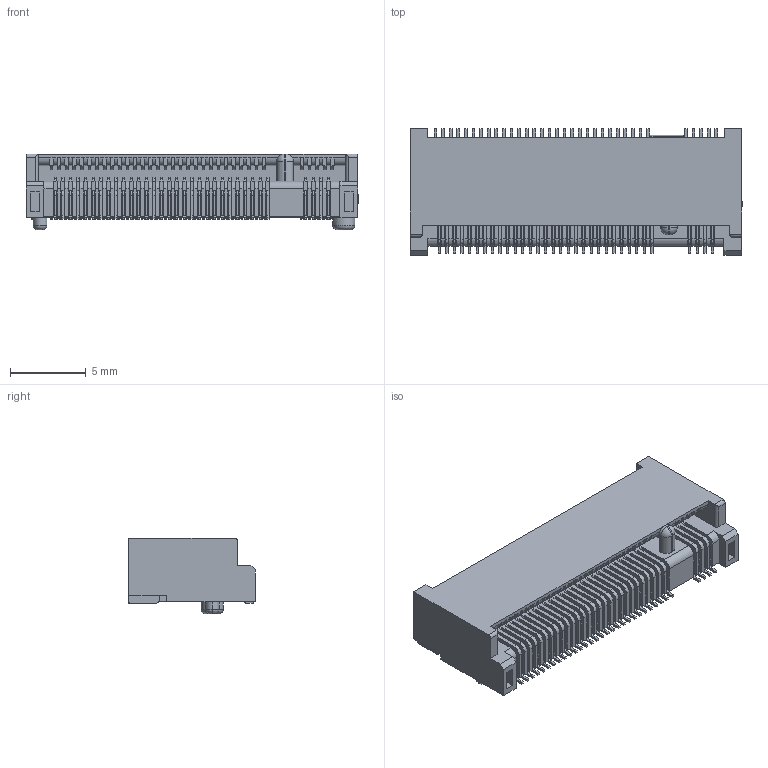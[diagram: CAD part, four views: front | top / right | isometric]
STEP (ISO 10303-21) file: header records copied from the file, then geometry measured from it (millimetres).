
FILE_DESCRIPTION (( 'STEP AP214' ), '1' );
FILE_NAME ('PCIE-SMD_75P-P0.50_91302-42-067RCM.STEP', '2026-03-09T15:03:18', ( '' ), ( '' ), 'SwSTEP 2.0', 'SolidWorks 2020', '' );
FILE_SCHEMA (( 'AUTOMOTIVE_DESIGN' ));
Length unit declared in the file: millimetre
Products named in the file (1): PCIE-SMD_75P-P0.50_91302-42-067RCM
Bounding box: 21.86 x 8.36 x 5 mm (x, y, z)
Volume: 479.7 mm3; surface area: 1200.9 mm2
Topology: 1 solids, 1 shells, 2190 faces, 6426 edges, 4256 vertices
Faces by surface type: plane 1790, cylinder 294, bspline 100, torus 4, sphere 2
Entity records: 96732 total; most frequent: CARTESIAN_POINT 14271, ORIENTED_EDGE 12848, DIRECTION 11000, EDGE_CURVE 6424, VECTOR 5622, LINE 5622, VERTEX_POINT 4256, AXIS2_PLACEMENT_3D 2689
